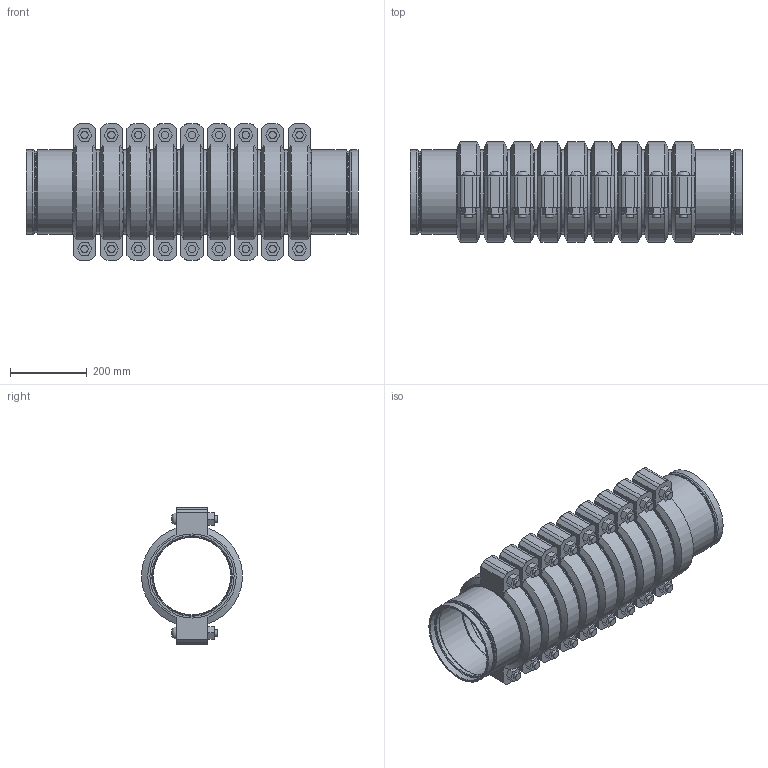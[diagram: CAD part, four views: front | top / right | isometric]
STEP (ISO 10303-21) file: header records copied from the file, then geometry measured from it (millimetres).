
FILE_DESCRIPTION(/* description */ ('VIC STRENGTHIN 100 EXPANSION JOINT 9 COUPLINGS COMPRESSED STYLE E155 (ST1)','CAx-IF Rec.Pracs.---Representation and Presentation of Product Manufacturing Information (PMI)---4.0---2014-10-13'),/* implementation_level */ '2;1');
FILE_NAME(/* name */ 'C:\Users\Vjadhav\AppData\Roaming\Autodesk\ApplicationPlugins\Victaulic.Temp\A705\Victaulic_SS-StrengThin 100_Expansion Joint_Compressed_9 Couplings_Style E155 (ST1)_8 (200).stp',/* time_stamp */ '2021-07-23T12:37:41+05:00',/* author */ ('kkamble'),/* organization */ ('Victaulic'),/* preprocessor_version */ 'ST-DEVELOPER v17.2',/* originating_system */ 'Autodesk Inventor 2019',/* authorisation */ '');
FILE_SCHEMA (('AP242_MANAGED_MODEL_BASED_3D_ENGINEERING_MIM_LF { 1 0 10303 442 1 1 4 }'));
Length unit declared in the file: inch
Products named in the file (4): E155-08.0; E494G-08.0; Nipple-08.0; 075-08.0
Assembly tree (19 placements, depth 2):
  E155-08.0
    E494G-08.0  x2
    Nipple-08.0  x8
    075-08.0  x9
Bounding box: 864.36 x 261.72 x 354.84 mm (x, y, z)
Volume: 16086529.4 mm3; surface area: 2813876.9 mm2
Topology: 19 solids, 37 shells, 643 faces, 1613 edges, 1140 vertices
Faces by surface type: plane 368, cylinder 185, cone 40, torus 32, bspline 18
Full cylindrical faces by diameter (mm): 19.05 x36, 21.209 x18, 201.651 x2, 202.717 x8, 204.851 x2, 209.525 x6, 211.201 x2, 214.401 x18, 219.075 x39
Entity records: 3762 total; most frequent: DIRECTION 673, CARTESIAN_POINT 660, ORIENTED_EDGE 544, AXIS2_PLACEMENT_3D 288, EDGE_CURVE 272, VERTEX_POINT 197, CIRCLE 167, EDGE_LOOP 125
